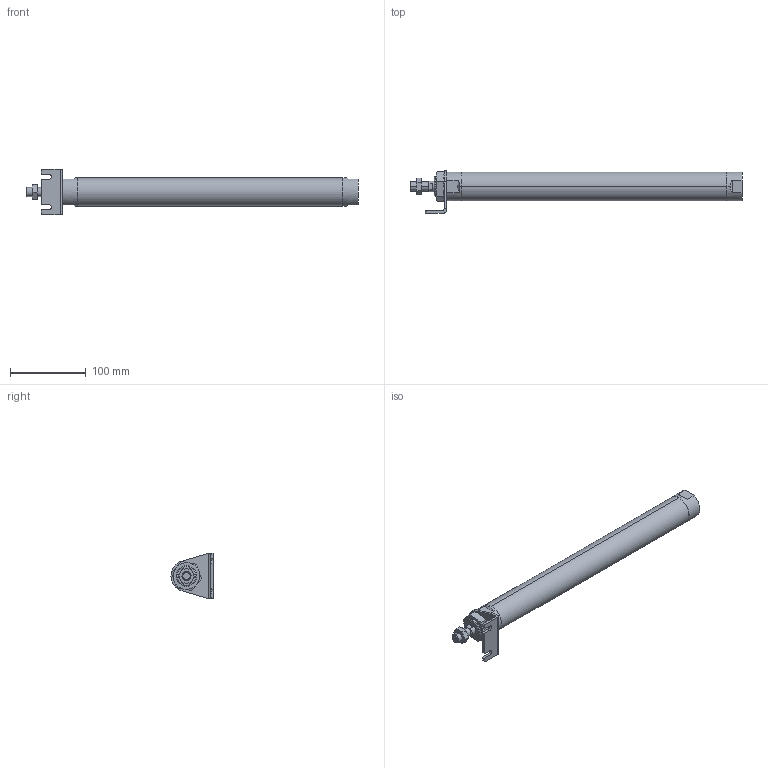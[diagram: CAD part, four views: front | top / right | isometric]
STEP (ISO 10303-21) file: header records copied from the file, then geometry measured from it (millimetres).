
FILE_DESCRIPTION (( 'STEP AP203' ), '1' );
FILE_NAME ('JGND2-32-300-L.STEP', '2016-08-04T03:03:27', ( '' ), ( '' ), 'SwSTEP 2.0', 'SolidWorks 2014', '' );
FILE_SCHEMA (( 'CONFIG_CONTROL_DESIGN' ));
Length unit declared in the file: millimetre
Products named in the file (5): JGND2-32-300-L; J#2-32-L; J#2-32-300(P)
Assembly tree (4 placements, depth 2):
  JGND2-32-300-L
    J#2-32-300(P)
    (unnamed)
    (unnamed)
    J#2-32-L
Bounding box: 437 x 55.5 x 60 mm (x, y, z)
Volume: 459352.3 mm3; surface area: 63747.3 mm2
Topology: 4 solids, 4 shells, 116 faces, 273 edges, 167 vertices
Faces by surface type: plane 47, cylinder 32, torus 24, cone 13
Entity records: 4285 total; most frequent: CARTESIAN_POINT 1166, DIRECTION 548, ORIENTED_EDGE 538, EDGE_CURVE 269, AXIS2_PLACEMENT_3D 219, VERTEX_POINT 167, EDGE_LOOP 128, FACE_OUTER_BOUND 116
